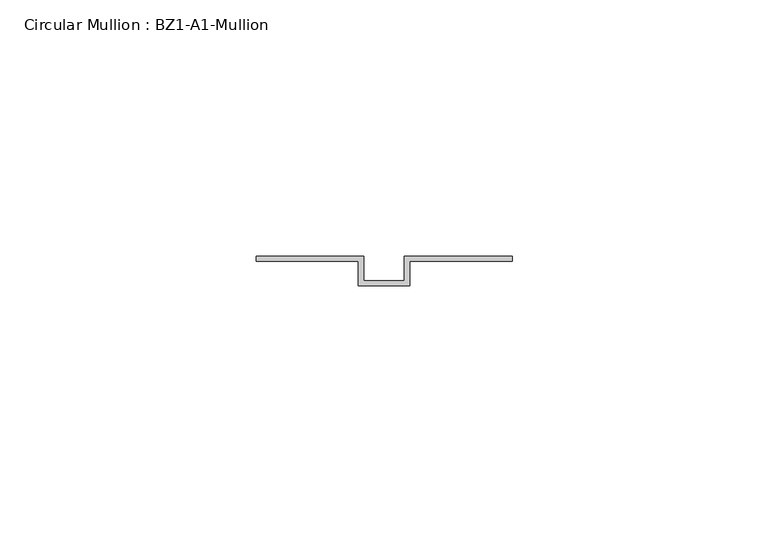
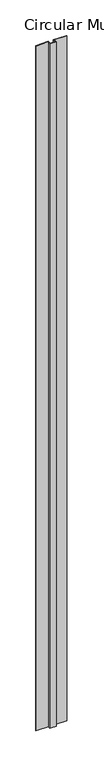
"""IFC4 building model written with IfcOpenShell, lengths in millimetres: member geometry, Circular Mullion : BZ1-A1-Mullion."""

import ifcopenshell
import ifcopenshell.guid

model = None  # the IFC model being written
_history = None  # IfcOwnerHistory: only IFC2X3 demands one
_inside = {}  # id of a spatial element -> (the spatial element, [elements in it])
_under = {}  # id of a project, library or spatial element -> (it, [spatial elements below it])
_declared = {}  # id of a project -> (the project, [libraries it declares])
_typed = {}  # id of a type object -> (the type object, [elements of that type])
_made_of = {}  # id of a material, layer set ... -> (it, [elements and type objects made of it])


def new_model(schema):
    """Start an empty IFC model of exactly this schema.

    Asked for "IFC4X3", IfcOpenShell would pick the latest addendum, in which some entities
    have other attributes; the version numbers below select the first issue.
    IFC2X3 requires an IfcOwnerHistory on every rooted entity: one is made here for all.
    """
    global model, _history
    if schema == "IFC4X3":
        model = ifcopenshell.file(schema_version=(4, 3, 0, 0))
    else:
        model = ifcopenshell.file(schema=schema)
    _inside.clear()
    _under.clear()
    _declared.clear()
    _typed.clear()
    _made_of.clear()
    _history = None
    if model.schema == "IFC2X3":
        org = make("IfcOrganization", Name="unknown")
        user = make(
            "IfcPersonAndOrganization",
            ThePerson=make("IfcPerson", FamilyName="unknown"),
            TheOrganization=org,
        )
        app = make(
            "IfcApplication",
            ApplicationDeveloper=org,
            Version="unknown",
            ApplicationFullName="unknown",
            ApplicationIdentifier="unknown",
        )
        _history = make(
            "IfcOwnerHistory",
            OwningUser=user,
            OwningApplication=app,
            ChangeAction="ADDED",
            CreationDate=0,
        )
    return model


def make(cls, **values):
    """One entity of the class cls with the attributes given. An attribute that is None is left unset."""
    return model.create_entity(
        cls, **{name: value for name, value in values.items() if value is not None}
    )


def rooted(cls, **values):
    """An entity with a GlobalId (a new one), such as an element, a storey or a relation."""
    return make(cls, GlobalId=ifcopenshell.guid.new(), OwnerHistory=_history, **values)


def si_unit(unit_type, name, prefix=None):
    """IfcSIUnit, for example si_unit("LENGTHUNIT", "METRE", prefix="MILLI")."""
    return make("IfcSIUnit", UnitType=unit_type, Prefix=prefix, Name=name)


def assignment(units):
    """IfcUnitAssignment: the units of a project."""
    return None if units is None else make("IfcUnitAssignment", Units=units)


def point(xyz):
    """IfcCartesianPoint."""
    return None if xyz is None else make("IfcCartesianPoint", Coordinates=xyz)


def direction(xyz):
    """IfcDirection."""
    return None if xyz is None else make("IfcDirection", DirectionRatios=xyz)


def frame(location, z_axis=None, x_axis=None):
    """IfcAxis2Placement3D, a coordinate frame: its origin and axes. An axis left out is left unset."""
    return make(
        "IfcAxis2Placement3D",
        Location=point(location),
        Axis=direction(z_axis),
        RefDirection=direction(x_axis),
    )


def origin():
    """The frame at (0, 0, 0) with its axes left unset."""
    return frame((0.0, 0.0, 0.0))


def place(relative_to, where):
    """IfcLocalPlacement: puts the frame where relative to a parent placement (None: the world)."""
    return make(
        "IfcLocalPlacement", PlacementRelTo=relative_to, RelativePlacement=where
    )


def context(
    kind, dimensions, precision=None, world=None, true_north=None, identifier=None
):
    """IfcGeometricRepresentationContext, for example the 3D "Model" context."""
    return make(
        "IfcGeometricRepresentationContext",
        ContextIdentifier=identifier,
        ContextType=kind,
        CoordinateSpaceDimension=dimensions,
        Precision=precision,
        WorldCoordinateSystem=world,
        TrueNorth=true_north,
    )


def project(units=None, contexts=None):
    """IfcProject with its units and contexts."""
    return rooted(
        "IfcProject",
        Name="project",
        RepresentationContexts=contexts,
        UnitsInContext=assignment(units),
    )


def spatial(cls, under=None, at=None, **own):
    """A site, building, storey or space (cls), placed at a placement, below another one or the project."""
    s = rooted(cls, ObjectPlacement=at, **own)
    if under is not None:
        _under.setdefault(under.id(), (under, []))[1].append(s)
    return s


def polyline(points):
    """IfcPolyline through the points."""
    return make("IfcPolyline", Points=[point(p) for p in points])


def outline(outer, holes=None, kind="AREA"):
    """IfcArbitraryClosedProfileDef: a profile drawn as a closed curve; with holes, ...WithVoids."""
    if holes is None:
        return make("IfcArbitraryClosedProfileDef", ProfileType=kind, OuterCurve=outer)
    return make(
        "IfcArbitraryProfileDefWithVoids",
        ProfileType=kind,
        OuterCurve=outer,
        InnerCurves=holes,
    )


def extrude(swept, where, along, depth):
    """IfcExtrudedAreaSolid: the profile swept, set in the frame where, extruded along a direction by depth."""
    return make(
        "IfcExtrudedAreaSolid",
        SweptArea=swept,
        Position=where,
        ExtrudedDirection=direction(along),
        Depth=depth,
    )


def shape(context_of_items, identifier, shape_type, items):
    """IfcShapeRepresentation: the items that make up one representation, for example the "Body"."""
    return make(
        "IfcShapeRepresentation",
        ContextOfItems=context_of_items,
        RepresentationIdentifier=identifier,
        RepresentationType=shape_type,
        Items=items,
    )


def source(mapping_origin, context_of_items, identifier, shape_type, items):
    """IfcRepresentationMap: a shape defined once, which mapped items show again and again."""
    return make(
        "IfcRepresentationMap",
        MappingOrigin=mapping_origin,
        MappedRepresentation=shape(context_of_items, identifier, shape_type, items),
    )


def transform(
    local_origin,
    x_axis=None,
    y_axis=None,
    z_axis=None,
    scale=None,
    scale2=None,
    scale3=None,
    uniform=True,
):
    """IfcCartesianTransformationOperator3D, or its non-uniform kind. x_axis, y_axis, z_axis: its Axis1, 2, 3."""
    if uniform:
        return make(
            "IfcCartesianTransformationOperator3D",
            Axis1=direction(x_axis),
            Axis2=direction(y_axis),
            LocalOrigin=point(local_origin),
            Scale=scale,
            Axis3=direction(z_axis),
        )
    return make(
        "IfcCartesianTransformationOperator3DnonUniform",
        Axis1=direction(x_axis),
        Axis2=direction(y_axis),
        LocalOrigin=point(local_origin),
        Scale=scale,
        Axis3=direction(z_axis),
        Scale2=scale2,
        Scale3=scale3,
    )


def mapped(mapping_source, mapping_target):
    """IfcMappedItem: shows the shape of a source again, moved by a transform."""
    return make(
        "IfcMappedItem", MappingSource=mapping_source, MappingTarget=mapping_target
    )


def made_of(thing, what):
    """Note that an element or type object is made of a material, layer set ...; save() writes the relation."""
    if what is not None:
        _made_of.setdefault(what.id(), (what, []))[1].append(thing)
    return thing


def element(
    cls,
    number,
    at=None,
    inside=None,
    cuts=None,
    type_object=None,
    material=None,
    context=None,
    identifier="Body",
    shape_type=None,
    held_by="IfcProductDefinitionShape",
    body=None,
    shapes=None,
    **own,
):
    """One element of the class cls, such as IfcWall. Its Tag is "e" and its number.

    at: its placement. inside: the storey or other place that contains it. cuts: it is an
    opening in that element (IfcRelVoidsElement). A single representation is given by context,
    identifier, shape_type and body (its items); several are given by shapes. held_by: the class
    of the entity that holds the representations. save() writes the other relations.
    """
    e = rooted(cls, Tag="e%d" % number, ObjectPlacement=at, **own)
    if body is not None:
        shapes = [shape(context, identifier, shape_type, body)]
    if shapes is not None:
        e.Representation = make(held_by, Representations=shapes)
    if inside is not None:
        _inside.setdefault(inside.id(), (inside, []))[1].append(e)
    if cuts is not None:
        rooted(
            "IfcRelVoidsElement", RelatingBuildingElement=cuts, RelatedOpeningElement=e
        )
    if type_object is not None:
        _typed.setdefault(type_object.id(), (type_object, []))[1].append(e)
    return made_of(e, material)


def aggregate(whole, parts):
    """IfcRelAggregates: a whole, such as a stair, and the parts it consists of."""
    return rooted("IfcRelAggregates", RelatingObject=whole, RelatedObjects=parts)


def save(model, path):
    """Write the relations noted so far, then the file.

    IfcRelAggregates (storeys below a building ...), IfcRelContainedInSpatialStructure (elements
    in a storey), IfcRelDefinesByType, IfcRelAssociatesMaterial and IfcRelDeclares: one each for
    every whole, place, type object, material and project.
    """
    for whole, parts in _under.values():
        aggregate(whole, parts)
    for where, things in _inside.values():
        rooted(
            "IfcRelContainedInSpatialStructure",
            RelatedElements=things,
            RelatingStructure=where,
        )
    for kind, things in _typed.values():
        rooted("IfcRelDefinesByType", RelatedObjects=things, RelatingType=kind)
    for what, things in _made_of.values():
        rooted("IfcRelAssociatesMaterial", RelatedObjects=things, RelatingMaterial=what)
    for by, libraries in _declared.values():
        rooted("IfcRelDeclares", RelatingContext=by, RelatedDefinitions=libraries)
    model.write(path)


def circular_mullion_bz1_a1_mullion_29318d9d(model_context):
    return source(origin(), model_context, "Body", "SweptSolid", [
        extrude(outline(polyline([(-25.0, 11.0), (-4.0, 11.0), (-4.0, 6.2), (4.0, 6.2), (4.0, 11.0), (25.0, 11.0), (25.0, 10.0), (5.0, 10.0), (5.0, 5.2), (-5.0, 5.2), (-5.0, 10.0), (-25.0, 10.0), (-25.0, 11.0)])), frame((0.0, 0.0, -1177.1265959), z_axis=(0.0, 0.0, 1.0), x_axis=(1.0, 0.0, 0.0)), (0.0, 0.0, 1.0), 1177.1265959),
    ])


if __name__ == "__main__":
    model = new_model("IFC4")
    model_context = context("Model", 3, world=origin())
    ifc_project = project(units=[si_unit("LENGTHUNIT", "METRE", prefix="MILLI")], contexts=[model_context])
    site = spatial("IfcSite", under=ifc_project)
    building = spatial("IfcBuilding", under=site)
    placement = place(None, origin())
    circular_mullion_bz1_a1_mullion_shape = circular_mullion_bz1_a1_mullion_29318d9d(model_context)
    element("IfcMember", 1, ObjectType="Circular Mullion : BZ1-A1-Mullion", at=placement, inside=building, context=model_context, shape_type="MappedRepresentation", body=[
        mapped(circular_mullion_bz1_a1_mullion_shape, transform((0.0, 0.0, 0.0), x_axis=(1.0, 0.0, 0.0), y_axis=(0.0, 1.0, 0.0), z_axis=(0.0, 0.0, 1.0))),
    ])
    save(model, "model.ifc")
